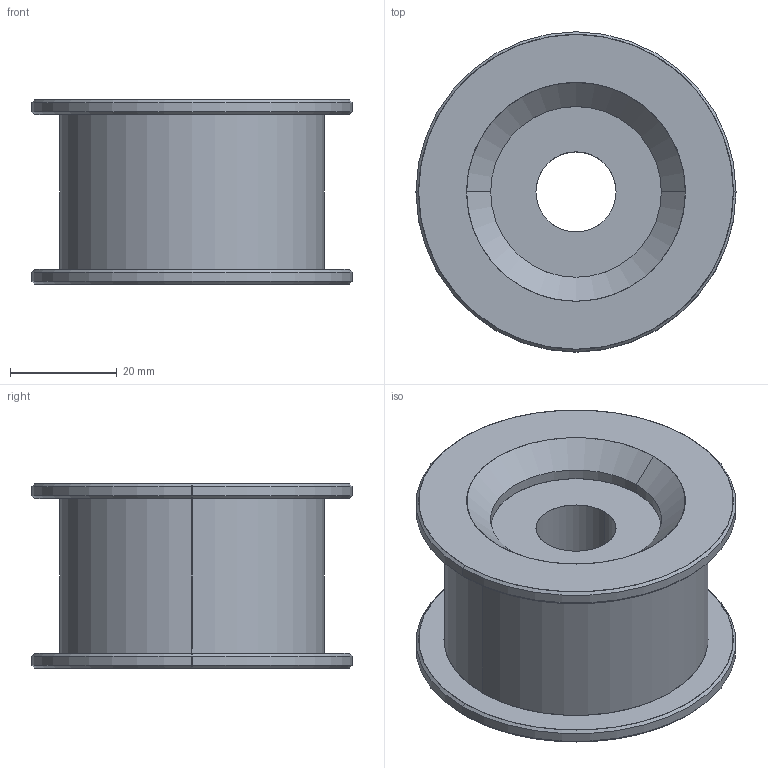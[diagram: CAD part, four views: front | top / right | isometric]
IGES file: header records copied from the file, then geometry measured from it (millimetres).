
Start section: SolidWorks IGES file using analytic representation for surfaces
Global section: file name: X:\11_SW2020-Inv2020\00_全2021-11新製品まで\f\FIP3050\fip3050.IGS; native system: SolidWorks 2020; preprocessor: SolidWorks 2020; author: ImaoCorp; date: 211026.090044; units: millimetre
Bounding box: 60 x 60 x 34.5 mm (x, y, z)
Surface area: 14258.2 mm2 (no closed solid volume)
Topology: 0 solids, 0 shells, 30 faces, 800 edges, 800 vertices
Faces by surface type: revolution 24, bspline 6
